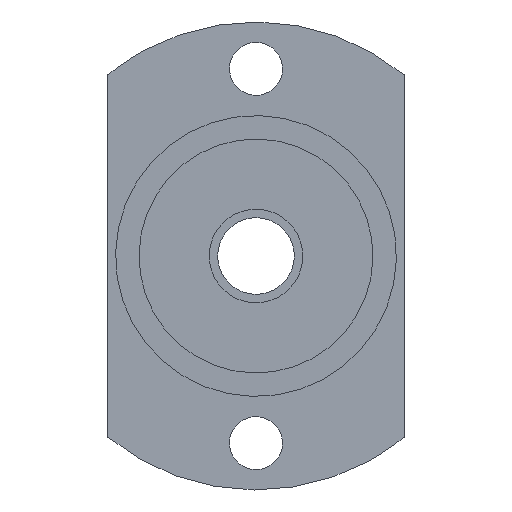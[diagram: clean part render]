
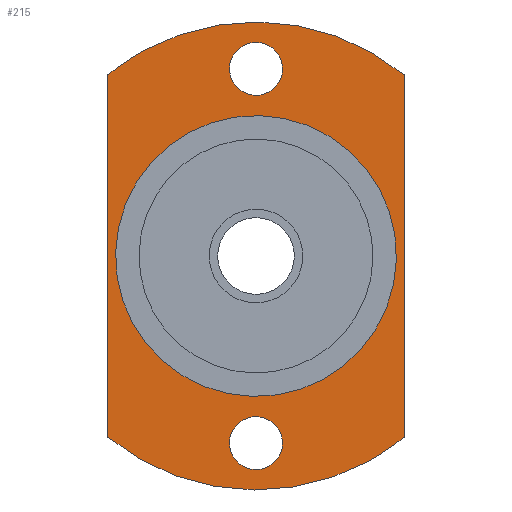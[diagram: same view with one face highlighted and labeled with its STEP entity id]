
A CAD part, left-side view. The second image highlights one B-rep face of the part: STEP entity #215.
In plain terms, the highlighted planar face has unit normal (-1, 0, 0).
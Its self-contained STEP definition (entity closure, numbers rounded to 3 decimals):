
#72=CARTESIAN_POINT('Vertex',(-5.1,-1.492,-11.185)) ;
#77=CARTESIAN_POINT('Axis2P3D Location',(-5.1,0.,-12.)) ;
#81=CARTESIAN_POINT('Vertex',(-5.1,1.492,-12.815)) ;
#103=CARTESIAN_POINT('Axis2P3D Location',(-5.1,0.,-12.)) ;
#120=CARTESIAN_POINT('Axis2P3D Location',(-5.1,0.,15.)) ;
#125=CARTESIAN_POINT('Axis2P3D Location',(-5.1,0.,0.)) ;
#129=CARTESIAN_POINT('Vertex',(-5.1,-9.5,11.608)) ;
#131=CARTESIAN_POINT('Vertex',(-5.1,7.191,13.164)) ;
#134=CARTESIAN_POINT('Axis2P3D Location',(-5.1,0.,0.)) ;
#138=CARTESIAN_POINT('Vertex',(-5.1,9.5,11.608)) ;
#141=CARTESIAN_POINT('Line Origine',(-5.1,9.5,0.)) ;
#145=CARTESIAN_POINT('Vertex',(-5.1,9.5,-11.608)) ;
#148=CARTESIAN_POINT('Axis2P3D Location',(-5.1,0.,0.)) ;
#152=CARTESIAN_POINT('Vertex',(-5.1,-7.191,-13.164)) ;
#155=CARTESIAN_POINT('Axis2P3D Location',(-5.1,0.,0.)) ;
#159=CARTESIAN_POINT('Vertex',(-5.1,-9.5,-11.608)) ;
#162=CARTESIAN_POINT('Line Origine',(-5.1,-9.5,0.)) ;
#179=CARTESIAN_POINT('Axis2P3D Location',(-5.1,0.,12.)) ;
#183=CARTESIAN_POINT('Vertex',(-5.1,1.492,11.185)) ;
#185=CARTESIAN_POINT('Vertex',(-5.1,-1.492,12.815)) ;
#188=CARTESIAN_POINT('Axis2P3D Location',(-5.1,0.,12.)) ;
#197=CARTESIAN_POINT('Axis2P3D Location',(-5.1,0.,0.)) ;
#201=CARTESIAN_POINT('Vertex',(-5.1,4.315,7.898)) ;
#203=CARTESIAN_POINT('Vertex',(-5.1,-4.315,-7.898)) ;
#206=CARTESIAN_POINT('Axis2P3D Location',(-5.1,0.,0.)) ;
#78=DIRECTION('Axis2P3D Direction',(-1.,0.,0.)) ;
#104=DIRECTION('Axis2P3D Direction',(-1.,0.,0.)) ;
#121=DIRECTION('Axis2P3D Direction',(-1.,0.,0.)) ;
#122=DIRECTION('Axis2P3D XDirection',(0.,1.,0.)) ;
#126=DIRECTION('Axis2P3D Direction',(-1.,0.,0.)) ;
#135=DIRECTION('Axis2P3D Direction',(-1.,0.,0.)) ;
#142=DIRECTION('Vector Direction',(0.,0.,1.)) ;
#149=DIRECTION('Axis2P3D Direction',(-1.,0.,0.)) ;
#156=DIRECTION('Axis2P3D Direction',(-1.,0.,0.)) ;
#163=DIRECTION('Vector Direction',(0.,0.,1.)) ;
#180=DIRECTION('Axis2P3D Direction',(-1.,0.,0.)) ;
#189=DIRECTION('Axis2P3D Direction',(-1.,0.,0.)) ;
#198=DIRECTION('Axis2P3D Direction',(-1.,0.,0.)) ;
#207=DIRECTION('Axis2P3D Direction',(-1.,0.,0.)) ;
#79=AXIS2_PLACEMENT_3D('Circle Axis2P3D',#77,#78,$) ;
#105=AXIS2_PLACEMENT_3D('Circle Axis2P3D',#103,#104,$) ;
#123=AXIS2_PLACEMENT_3D('Plane Axis2P3D',#120,#121,#122) ;
#127=AXIS2_PLACEMENT_3D('Circle Axis2P3D',#125,#126,$) ;
#136=AXIS2_PLACEMENT_3D('Circle Axis2P3D',#134,#135,$) ;
#150=AXIS2_PLACEMENT_3D('Circle Axis2P3D',#148,#149,$) ;
#157=AXIS2_PLACEMENT_3D('Circle Axis2P3D',#155,#156,$) ;
#181=AXIS2_PLACEMENT_3D('Circle Axis2P3D',#179,#180,$) ;
#190=AXIS2_PLACEMENT_3D('Circle Axis2P3D',#188,#189,$) ;
#199=AXIS2_PLACEMENT_3D('Circle Axis2P3D',#197,#198,$) ;
#208=AXIS2_PLACEMENT_3D('Circle Axis2P3D',#206,#207,$) ;
#168=ORIENTED_EDGE('',*,*,#133,.T.) ;
#169=ORIENTED_EDGE('',*,*,#140,.T.) ;
#170=ORIENTED_EDGE('',*,*,#147,.F.) ;
#171=ORIENTED_EDGE('',*,*,#154,.T.) ;
#172=ORIENTED_EDGE('',*,*,#161,.T.) ;
#173=ORIENTED_EDGE('',*,*,#166,.T.) ;
#176=ORIENTED_EDGE('',*,*,#107,.F.) ;
#177=ORIENTED_EDGE('',*,*,#83,.F.) ;
#194=ORIENTED_EDGE('',*,*,#187,.F.) ;
#195=ORIENTED_EDGE('',*,*,#192,.F.) ;
#212=ORIENTED_EDGE('',*,*,#205,.F.) ;
#213=ORIENTED_EDGE('',*,*,#210,.F.) ;
#178=FACE_BOUND('',#175,.T.) ;
#196=FACE_BOUND('',#193,.T.) ;
#214=FACE_BOUND('',#211,.T.) ;
#143=VECTOR('Line Direction',#142,1.) ;
#164=VECTOR('Line Direction',#163,1.) ;
#215=ADVANCED_FACE('FK6N(H)',(#174,#178,#196,#214),#124,.T.) ;
#80=CIRCLE('generated circle',#79,1.7) ;
#106=CIRCLE('generated circle',#105,1.7) ;
#128=CIRCLE('generated circle',#127,15.) ;
#137=CIRCLE('generated circle',#136,15.) ;
#151=CIRCLE('generated circle',#150,15.) ;
#158=CIRCLE('generated circle',#157,15.) ;
#182=CIRCLE('generated circle',#181,1.7) ;
#191=CIRCLE('generated circle',#190,1.7) ;
#200=CIRCLE('generated circle',#199,9.) ;
#209=CIRCLE('generated circle',#208,9.) ;
#83=EDGE_CURVE('',#73,#82,#80,.T.) ;
#107=EDGE_CURVE('',#82,#73,#106,.T.) ;
#133=EDGE_CURVE('',#130,#132,#128,.T.) ;
#140=EDGE_CURVE('',#132,#139,#137,.T.) ;
#147=EDGE_CURVE('',#146,#139,#144,.T.) ;
#154=EDGE_CURVE('',#146,#153,#151,.T.) ;
#161=EDGE_CURVE('',#153,#160,#158,.T.) ;
#166=EDGE_CURVE('',#160,#130,#165,.T.) ;
#187=EDGE_CURVE('',#184,#186,#182,.T.) ;
#192=EDGE_CURVE('',#186,#184,#191,.T.) ;
#205=EDGE_CURVE('',#202,#204,#200,.T.) ;
#210=EDGE_CURVE('',#204,#202,#209,.T.) ;
#167=EDGE_LOOP('',(#168,#169,#170,#171,#172,#173)) ;
#175=EDGE_LOOP('',(#176,#177)) ;
#193=EDGE_LOOP('',(#194,#195)) ;
#211=EDGE_LOOP('',(#212,#213)) ;
#174=FACE_OUTER_BOUND('',#167,.T.) ;
#144=LINE('Line',#141,#143) ;
#165=LINE('Line',#162,#164) ;
#124=PLANE('',#123) ;
#73=VERTEX_POINT('',#72) ;
#82=VERTEX_POINT('',#81) ;
#130=VERTEX_POINT('',#129) ;
#132=VERTEX_POINT('',#131) ;
#139=VERTEX_POINT('',#138) ;
#146=VERTEX_POINT('',#145) ;
#153=VERTEX_POINT('',#152) ;
#160=VERTEX_POINT('',#159) ;
#184=VERTEX_POINT('',#183) ;
#186=VERTEX_POINT('',#185) ;
#202=VERTEX_POINT('',#201) ;
#204=VERTEX_POINT('',#203) ;
